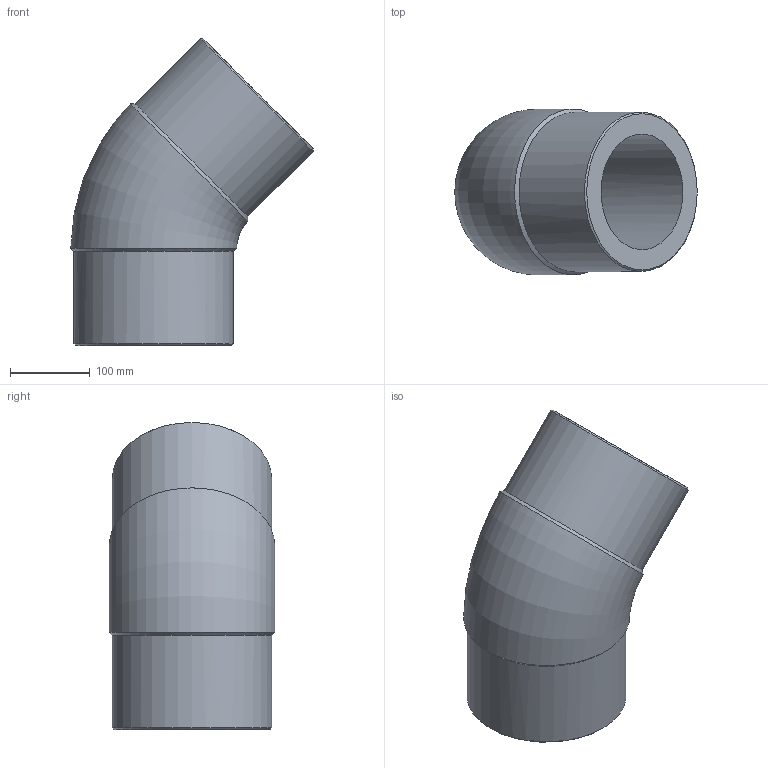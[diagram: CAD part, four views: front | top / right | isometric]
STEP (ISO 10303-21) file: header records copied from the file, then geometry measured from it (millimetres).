
FILE_DESCRIPTION(/* description */ ('Unknown'),/* implementation_level */ '2;1');
FILE_NAME(/* name */ 'G4P200H',/* time_stamp */ '2022-01-21T10:19:14+01:00',/* author */ ('Unknown'),/* organization */ ('Unknown'),/* preprocessor_version */ 'ST-DEVELOPER v18.1',/* originating_system */ 'Solid Edge',/* authorisation */ 'Unknown');
FILE_SCHEMA (('AUTOMOTIVE_DESIGN {1 0 10303 214 3 1 1}'));
Length unit declared in the file: millimetre
Products named in the file (1): G4P200H
Bounding box: 304.1 x 207.93 x 385.11 mm (x, y, z)
Volume: 5742268.2 mm3; surface area: 427418.5 mm2
Topology: 1 solids, 1 shells, 12 faces, 30 edges, 20 vertices
Faces by surface type: cone 4, cylinder 4, plane 2, torus 2
Full cylindrical faces by diameter (mm): 145.2 x2, 200 x2
Entity records: 462 total; most frequent: CARTESIAN_POINT 202, DIRECTION 48, ORIENTED_EDGE 34, AXIS2_PLACEMENT_3D 24, EDGE_LOOP 23, FACE_BOUND 23, EDGE_CURVE 17, VERTEX_POINT 16
